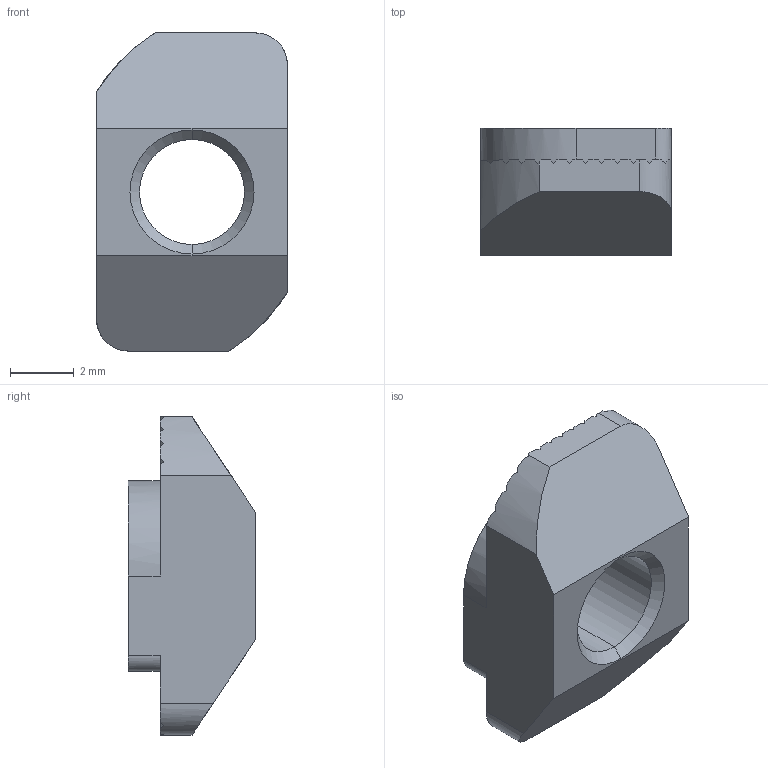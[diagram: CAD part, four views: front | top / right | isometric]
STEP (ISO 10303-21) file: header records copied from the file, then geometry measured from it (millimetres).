
FILE_DESCRIPTION (( 'STEP AP203' ), '1' );
FILE_NAME ('LIMA-RN4-62020.STEP', '2018-03-15T12:23:09', ( '' ), ( '' ), 'SwSTEP 2.0', 'SolidWorks 2013', '' );
FILE_SCHEMA (( 'CONFIG_CONTROL_DESIGN' ));
Length unit declared in the file: millimetre
Products named in the file (1): LIMA-RN4-62020
Bounding box: 6 x 4 x 10 mm (x, y, z)
Volume: 134.9 mm3; surface area: 222.9 mm2
Topology: 1 solids, 1 shells, 98 faces, 284 edges, 188 vertices
Faces by surface type: plane 84, cylinder 10, cone 4
Entity records: 3282 total; most frequent: CARTESIAN_POINT 739, ORIENTED_EDGE 568, DIRECTION 471, EDGE_CURVE 284, VERTEX_POINT 188, VECTOR 183, LINE 183, AXIS2_PLACEMENT_3D 144
